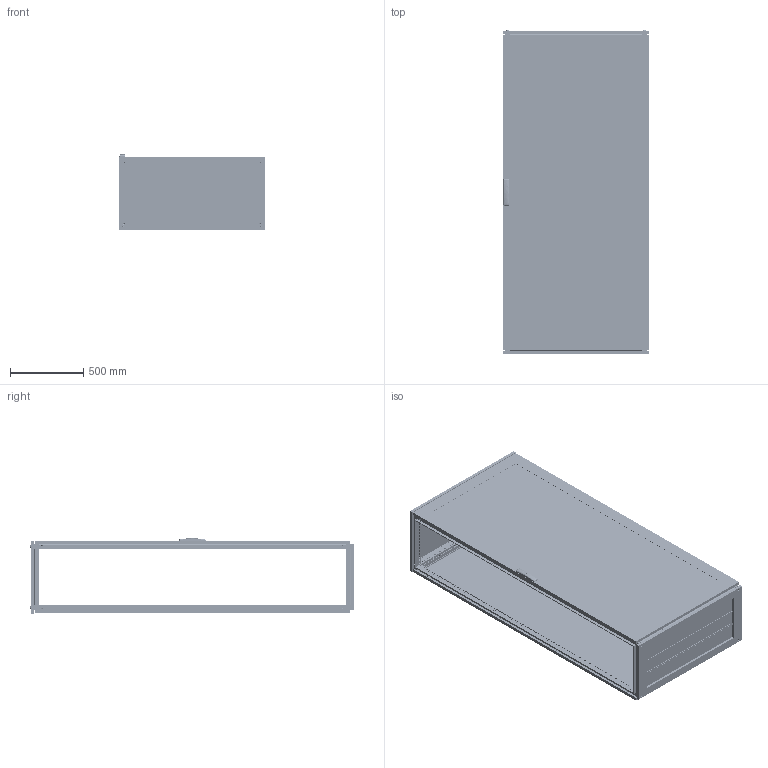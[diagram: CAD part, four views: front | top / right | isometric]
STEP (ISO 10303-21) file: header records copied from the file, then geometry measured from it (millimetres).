
FILE_DESCRIPTION (( 'STEP AP203' ), '1' );
FILE_NAME ('R5CQEN22105AX +.STEP', '2025-05-07T13:05:31', ( '' ), ( '' ), 'SwSTEP 2.0', 'SolidWorks 2022', '' );
FILE_SCHEMA (( 'CONFIG_CONTROL_DESIGN' ));
Length unit declared in the file: millimetre
Products named in the file (65): RB.2357.00.00.0 simple_-07; RB.2968.00.00.0 simple; RB.1957.00.00.0 simple_-15; R5NCRE-Assem simple_R5NCRE22100; M6x10 DIN 7500 E HX cl.5.8 Zinc_straight; 7 DIN 6799 Zinc; RB.0562.01.01.0 simple_-20; RB.2172.00.00.1 simple; RB.0054.01.01.0 simple_-31; Pressing stud FH-M6-12_M6x12mm; M6 MGR-MKO-0625 simple_Thread; М6х12 A5100231_straight; Pin 4x16 DIN 7 AISI 303 (A1) simple; PF 5x10 KTB simple_1000х500; RB.2969.00.01.0 simple; RB.1633.00.01.0 simple_-04; RB.2680.00.00.0 СБ simple; RB.2499.01.00.0 СБ simple_-24; R5CQEN22105AX +; RB.0562.00.00.0 СБ simple_-20; RB.0528.00.01.0 simple_-06; M8x12 AC00C476 cl.8,8 Zinc_stright; Square cap 20x20 simple; Glue CPTE simple_2200x1000; PF 7,5x15 CPE simple_2200x1000; RB.1867.01.00.0 СБ simple_-59; RB.2969.00.00.0 СБ simple; RB.1633.00.02.0 simple_-01; RB.0562.01.00.0 СБ simple_-20; RB.2685.00.00.0 simple_-01; M6x15 Erickson cl.4,8 Zinc; RB.2052.01.00.0 СБ simple_-31; AC00C446-R; RB.1867.01.01.0 simple_-41; RB.2686.00.00.0 simple; RB.0528.04.01.0 simple; Glass CPTE_2200x1000; TPA.08.0084.00.00.0 simple; RB.2680.00.01.0 simple; R5NKTB - Assem simple_H=2200 R5NKTB105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
Assembly tree (176 placements, depth 5):
  R5CQEN22105AX +
    R5NCPTE - Assem simple_R5NCPTE22100
      RB.0562.00.00.0 СБ simple_-20
        RB.0562.01.00.0 СБ simple_-20
          RB.0562.01.01.0 simple_-20
          М6х12 A5100231_straight  x9
          RB.2702.00.00.0 simple  x4
          PF 7,5x15 CPE simple_2200x1000
          Glass CPTE_2200x1000
          Glue CPTE simple_2200x1000
        Square cap 20x20 simple  x2
        M6x15 Erickson cl.4,8 Zinc  x3
        RB.0528.00.01.0 simple_-06  x2
        ATOS Traction guide ILY03.35  x4
        RB.2357.00.00.0 simple_-07
        RB.2680.00.00.0 СБ simple
          TPA.08.0139.00.01.0 simple
          RB.2680.00.01.0 simple
          RB.2680.00.02.0 simple  x2
        TPA.08.0139.00.03.0  x2
        M6 DIN 985 cl.6,0 Zinc_straight  x4
        4,0x16 F Torx Zinc (ART 88200)_thread  x2
        RB.0528.04.00.0 СБ simple  x2
          RB.0528.04.01.0 simple
          Pressing stud FH-M6-12_M6x12mm
      M6x10 DIN 912 HX cl.8,8 Zinc_straight  x8
      4.8x13 DIN 7981 PH Zinc_straight
      7 DIN 6799 Zinc simple  x4
      RB.2968.00.00.0 simple  x4
      RB.2969.00.00.0 СБ simple  x4
        RB.2969.00.01.0 simple
        Pin 4x16 DIN 7 AISI 303 (A1) simple
        M6 MGR-MKO-0625 simple_Thread
      AC00C446-R
      RB.2696.00.00.0 simple  x4
      7 DIN 6799 Zinc  x4
    R5NCRE-Assem simple_R5NCRE22100
      RB.2052.00.00.0 СБ simple_-31
        RB.2052.01.00.0 СБ simple_-31
          RB.0054.01.01.0 simple_-31
          М6х12 A5100231_straight  x4
        PF 7x14 CRE simple_2200x1000
      RB.2172.00.00.1 simple  x8
      M6x10 DIN 7500 E HX cl.5.8 Zinc_straight  x8
      M6x10 DIN 7500 M Torx cl.5.8 Zinc_straight  x8
    R5NKMN - Assem simple_R5NKMN22 (1000х500)
      RB.2528.00.00.0 simple_-06  x4
    R5NKTB - Assem simple_H=2200 R5NKTB105
      RB.2499.00.00.0 СБ simple_-25
        RB.2499.01.00.0 СБ simple_-24
          RB.1633.00.01.0 simple_-04  x2
          RB.1633.00.02.0 simple_-01  x2
          PF 5x10 KTB simple_1000х500
        RB.2457.00.00.0 СБ simple_-25
          RB.2455.00.00.0 simple_-04  x2
          RB.2456.00.00.0 simple_-01  x2
          TPA.08.0084.00.00.0 simple  x2
          TPA.08.0083.00.00.0 simple  x2
          M8x12 AC00C476 cl.8,8 Zinc_stright  x4
        RB.1957.00.00.0 simple_-15  x3
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Bounding box: 1000 x 2213.3 x 514.79 mm (x, y, z)
Volume: 22549352.7 mm3; surface area: 18837897.1 mm2
Topology: 179 solids, 195 shells, 24477 faces, 69623 edges, 45924 vertices
Faces by surface type: plane 13547, cylinder 9379, cone 714, bspline 435, torus 368, sphere 34
Entity records: 242057 total; most frequent: CARTESIAN_POINT 58466, ORIENTED_EDGE 36506, DIRECTION 35001, EDGE_CURVE 18279, VERTEX_POINT 12114, AXIS2_PLACEMENT_3D 11768, VECTOR 11465, LINE 11465
